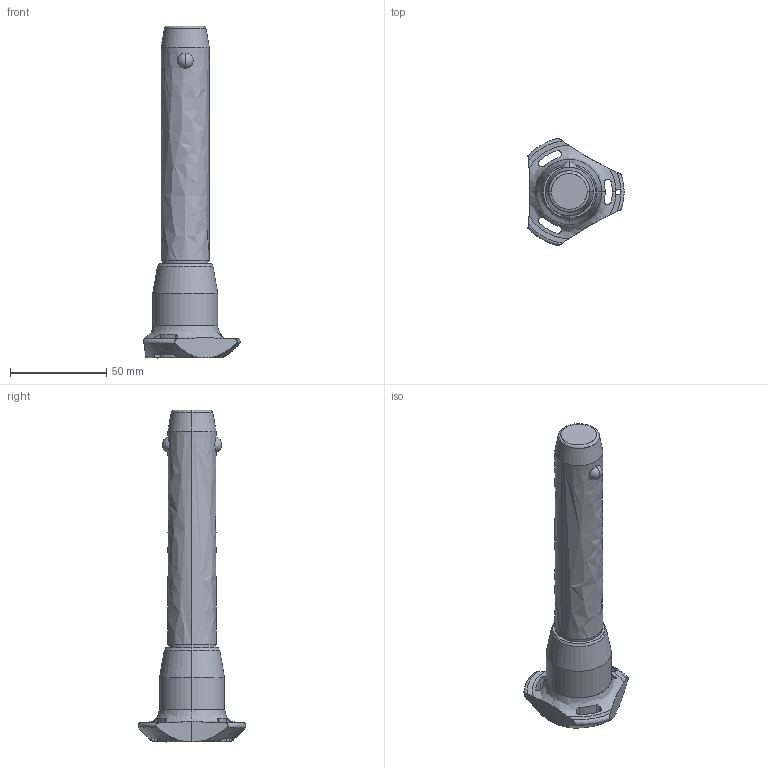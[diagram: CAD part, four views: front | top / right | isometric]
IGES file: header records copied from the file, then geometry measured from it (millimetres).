
Start section: SolidWorks IGES file using analytic representation for surfaces
Global section: file name: C:\Users\ianosborn\Desktop\QR1704_v2\QR1704_v2_20251111_IGES\QR1704.M25-100-S.igs; native system: SolidWorks 2019; preprocessor: SolidWorks 2019; author: IanOsborn; date: 251112.094003; units: millimetre
Bounding box: 50.03 x 56.02 x 172.7 mm (x, y, z)
Surface area: 19303.2 mm2 (no closed solid volume)
Topology: 0 solids, 0 shells, 65 faces, 1310 edges, 1306 vertices
Faces by surface type: revolution 50, bspline 15
